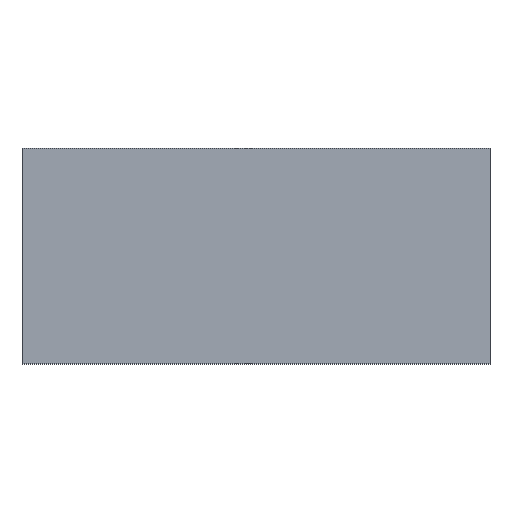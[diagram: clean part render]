
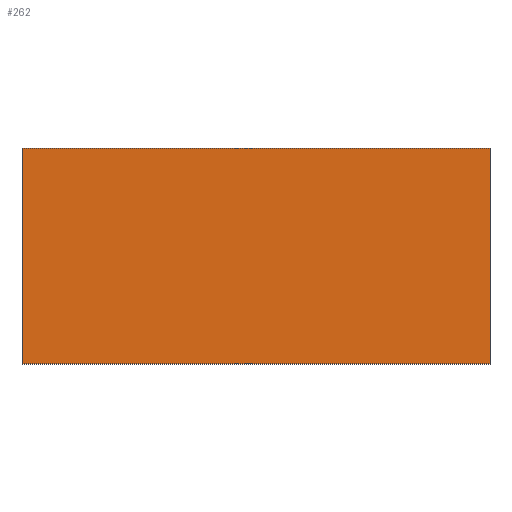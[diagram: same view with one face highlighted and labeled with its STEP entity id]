
A CAD part, front view. The second image highlights one B-rep face of the part: STEP entity #262.
In plain terms, the highlighted planar face has unit normal (0, -1, 0).
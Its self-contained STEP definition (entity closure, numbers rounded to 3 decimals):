
#32 = PLANE('',#33);
#33 = AXIS2_PLACEMENT_3D('',#34,#35,#36);
#34 = CARTESIAN_POINT('',(0.,18.,6.));
#35 = DIRECTION('',(1.,0.,0.));
#36 = DIRECTION('',(0.,0.,-1.));
#57 = VERTEX_POINT('',#58);
#58 = CARTESIAN_POINT('',(0.,0.,6.));
#72 = PLANE('',#73);
#73 = AXIS2_PLACEMENT_3D('',#74,#75,#76);
#74 = CARTESIAN_POINT('',(0.,18.,6.));
#75 = DIRECTION('',(0.,0.,-1.));
#76 = DIRECTION('',(1.,0.,0.));
#84 = EDGE_CURVE('',#57,#85,#87,.T.);
#85 = VERTEX_POINT('',#86);
#86 = CARTESIAN_POINT('',(0.,0.,0.));
#87 = SURFACE_CURVE('',#88,(#92,#99),.PCURVE_S1.);
#88 = LINE('',#89,#90);
#89 = CARTESIAN_POINT('',(0.,0.,6.));
#90 = VECTOR('',#91,1.);
#91 = DIRECTION('',(0.,0.,-1.));
#92 = PCURVE('',#32,#93);
#93 = DEFINITIONAL_REPRESENTATION('',(#94),#98);
#94 = LINE('',#95,#96);
#95 = CARTESIAN_POINT('',(0.,-18.));
#96 = VECTOR('',#97,1.);
#97 = DIRECTION('',(1.,0.));
#98 = ( GEOMETRIC_REPRESENTATION_CONTEXT(2) 
PARAMETRIC_REPRESENTATION_CONTEXT() REPRESENTATION_CONTEXT('2D SPACE',''
  ) );
#99 = PCURVE('',#100,#105);
#100 = PLANE('',#101);
#101 = AXIS2_PLACEMENT_3D('',#102,#103,#104);
#102 = CARTESIAN_POINT('',(0.,0.,6.));
#103 = DIRECTION('',(0.,-1.,0.));
#104 = DIRECTION('',(0.,0.,-1.));
#105 = DEFINITIONAL_REPRESENTATION('',(#106),#110);
#106 = LINE('',#107,#108);
#107 = CARTESIAN_POINT('',(0.,0.));
#108 = VECTOR('',#109,1.);
#109 = DIRECTION('',(1.,0.));
#110 = ( GEOMETRIC_REPRESENTATION_CONTEXT(2) 
PARAMETRIC_REPRESENTATION_CONTEXT() REPRESENTATION_CONTEXT('2D SPACE',''
  ) );
#126 = PLANE('',#127);
#127 = AXIS2_PLACEMENT_3D('',#128,#129,#130);
#128 = CARTESIAN_POINT('',(0.,18.,0.));
#129 = DIRECTION('',(0.,0.,-1.));
#130 = DIRECTION('',(1.,0.,0.));
#202 = PLANE('',#203);
#203 = AXIS2_PLACEMENT_3D('',#204,#205,#206);
#204 = CARTESIAN_POINT('',(13.,18.,6.));
#205 = DIRECTION('',(1.,0.,0.));
#206 = DIRECTION('',(0.,0.,-1.));
#220 = VERTEX_POINT('',#221);
#221 = CARTESIAN_POINT('',(13.,0.,0.));
#242 = EDGE_CURVE('',#85,#220,#243,.T.);
#243 = SURFACE_CURVE('',#244,(#248,#255),.PCURVE_S1.);
#244 = LINE('',#245,#246);
#245 = CARTESIAN_POINT('',(0.,0.,0.));
#246 = VECTOR('',#247,1.);
#247 = DIRECTION('',(1.,0.,0.));
#248 = PCURVE('',#126,#249);
#249 = DEFINITIONAL_REPRESENTATION('',(#250),#254);
#250 = LINE('',#251,#252);
#251 = CARTESIAN_POINT('',(0.,18.));
#252 = VECTOR('',#253,1.);
#253 = DIRECTION('',(1.,0.));
#254 = ( GEOMETRIC_REPRESENTATION_CONTEXT(2) 
PARAMETRIC_REPRESENTATION_CONTEXT() REPRESENTATION_CONTEXT('2D SPACE',''
  ) );
#255 = PCURVE('',#100,#256);
#256 = DEFINITIONAL_REPRESENTATION('',(#257),#261);
#257 = LINE('',#258,#259);
#258 = CARTESIAN_POINT('',(6.,0.));
#259 = VECTOR('',#260,1.);
#260 = DIRECTION('',(0.,1.));
#261 = ( GEOMETRIC_REPRESENTATION_CONTEXT(2) 
PARAMETRIC_REPRESENTATION_CONTEXT() REPRESENTATION_CONTEXT('2D SPACE',''
  ) );
#262 = ADVANCED_FACE('',(#263),#100,.T.);
#263 = FACE_BOUND('',#264,.T.);
#264 = EDGE_LOOP('',(#265,#288,#289,#290));
#265 = ORIENTED_EDGE('',*,*,#266,.F.);
#266 = EDGE_CURVE('',#57,#267,#269,.T.);
#267 = VERTEX_POINT('',#268);
#268 = CARTESIAN_POINT('',(13.,0.,6.));
#269 = SURFACE_CURVE('',#270,(#274,#281),.PCURVE_S1.);
#270 = LINE('',#271,#272);
#271 = CARTESIAN_POINT('',(0.,0.,6.));
#272 = VECTOR('',#273,1.);
#273 = DIRECTION('',(1.,0.,0.));
#274 = PCURVE('',#100,#275);
#275 = DEFINITIONAL_REPRESENTATION('',(#276),#280);
#276 = LINE('',#277,#278);
#277 = CARTESIAN_POINT('',(0.,0.));
#278 = VECTOR('',#279,1.);
#279 = DIRECTION('',(0.,1.));
#280 = ( GEOMETRIC_REPRESENTATION_CONTEXT(2) 
PARAMETRIC_REPRESENTATION_CONTEXT() REPRESENTATION_CONTEXT('2D SPACE',''
  ) );
#281 = PCURVE('',#72,#282);
#282 = DEFINITIONAL_REPRESENTATION('',(#283),#287);
#283 = LINE('',#284,#285);
#284 = CARTESIAN_POINT('',(0.,18.));
#285 = VECTOR('',#286,1.);
#286 = DIRECTION('',(1.,0.));
#287 = ( GEOMETRIC_REPRESENTATION_CONTEXT(2) 
PARAMETRIC_REPRESENTATION_CONTEXT() REPRESENTATION_CONTEXT('2D SPACE',''
  ) );
#288 = ORIENTED_EDGE('',*,*,#84,.T.);
#289 = ORIENTED_EDGE('',*,*,#242,.T.);
#290 = ORIENTED_EDGE('',*,*,#291,.F.);
#291 = EDGE_CURVE('',#267,#220,#292,.T.);
#292 = SURFACE_CURVE('',#293,(#297,#304),.PCURVE_S1.);
#293 = LINE('',#294,#295);
#294 = CARTESIAN_POINT('',(13.,0.,6.));
#295 = VECTOR('',#296,1.);
#296 = DIRECTION('',(0.,0.,-1.));
#297 = PCURVE('',#100,#298);
#298 = DEFINITIONAL_REPRESENTATION('',(#299),#303);
#299 = LINE('',#300,#301);
#300 = CARTESIAN_POINT('',(0.,13.));
#301 = VECTOR('',#302,1.);
#302 = DIRECTION('',(1.,0.));
#303 = ( GEOMETRIC_REPRESENTATION_CONTEXT(2) 
PARAMETRIC_REPRESENTATION_CONTEXT() REPRESENTATION_CONTEXT('2D SPACE',''
  ) );
#304 = PCURVE('',#202,#305);
#305 = DEFINITIONAL_REPRESENTATION('',(#306),#310);
#306 = LINE('',#307,#308);
#307 = CARTESIAN_POINT('',(0.,-18.));
#308 = VECTOR('',#309,1.);
#309 = DIRECTION('',(1.,0.));
#310 = ( GEOMETRIC_REPRESENTATION_CONTEXT(2) 
PARAMETRIC_REPRESENTATION_CONTEXT() REPRESENTATION_CONTEXT('2D SPACE',''
  ) );
